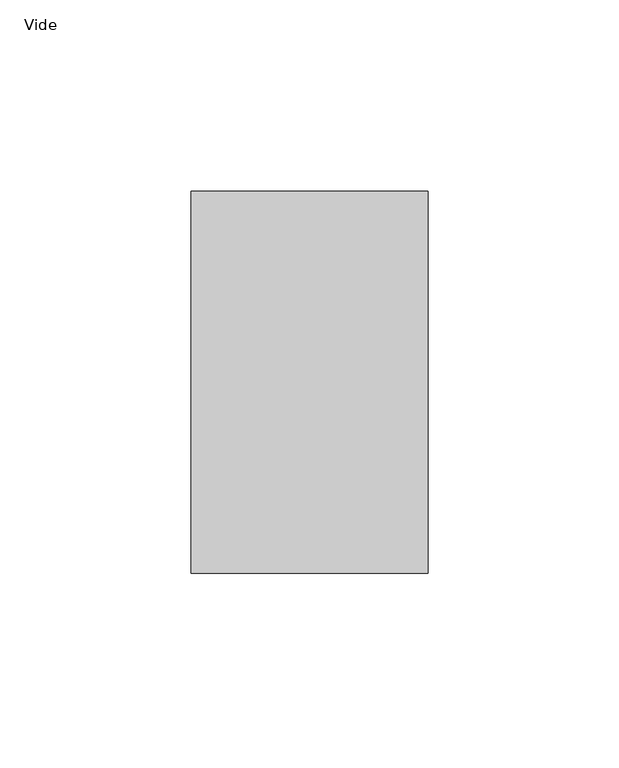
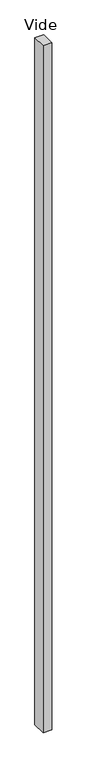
"""IFC4 building model written with IfcOpenShell, lengths in millimetres: plate geometry, Panneau système vide : Vide."""

from ifc_helpers import new_model, si_unit, origin, origin_with_axes, place, context, project, spatial, polyline, outline, extrude, source, transform, mapped, element, save


def vide_d869a2ce(model_context):
    return source(origin(), model_context, "Body", "SweptSolid", [
        extrude(outline(polyline([(30.9999998, 50.0), (-30.9999998, 50.0), (-30.9999998, 150.0), (30.9999998, 150.0), (30.9999998, 50.0)])), origin_with_axes(), (0.0, 0.0, 1.0), 5176.3809021),
    ])


if __name__ == "__main__":
    model = new_model("IFC4")
    model_context = context("Model", 3, world=origin())
    ifc_project = project(units=[si_unit("LENGTHUNIT", "METRE", prefix="MILLI")], contexts=[model_context])
    site = spatial("IfcSite", under=ifc_project)
    building = spatial("IfcBuilding", under=site)
    placement = place(None, origin())
    vide_shape = vide_d869a2ce(model_context)
    element("IfcPlate", 1, ObjectType="Panneau système vide : Vide", at=placement, inside=building, context=model_context, shape_type="MappedRepresentation", body=[
        mapped(vide_shape, transform((0.0, 0.0, 0.0), x_axis=(1.0, 0.0, 0.0), y_axis=(0.0, 1.0, 0.0), z_axis=(0.0, 0.0, 1.0))),
    ])
    save(model, "model.ifc")
